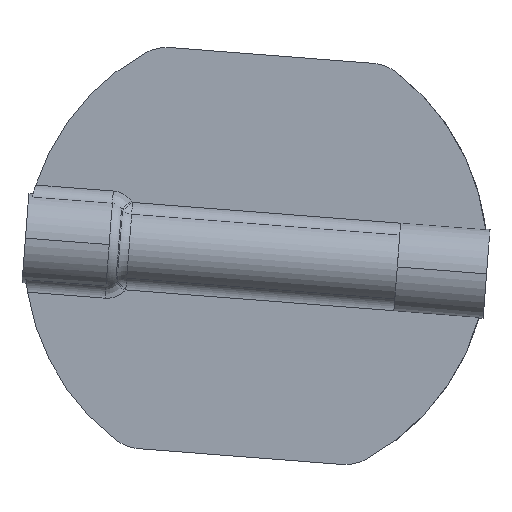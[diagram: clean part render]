
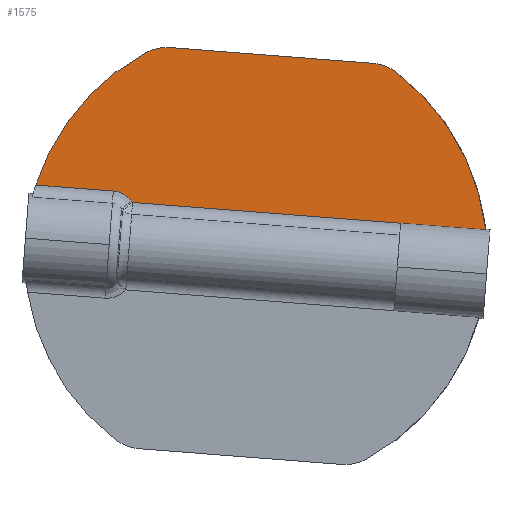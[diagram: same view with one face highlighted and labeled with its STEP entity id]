
A CAD part, front view. The second image highlights one B-rep face of the part: STEP entity #1575.
In plain terms, the highlighted planar face has unit normal (0, -1, 0).
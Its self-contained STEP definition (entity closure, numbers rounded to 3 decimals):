
#45=CARTESIAN_POINT('',(14.788,-1.,191.483));
#46=CARTESIAN_POINT('',(14.775,-1.,191.499));
#47=CARTESIAN_POINT('',(14.751,-1.,191.531));
#48=CARTESIAN_POINT('',(14.714,-1.,191.58));
#49=CARTESIAN_POINT('',(14.689,-1.,191.612));
#50=CARTESIAN_POINT('',(14.677,-1.,191.628));
#52=CARTESIAN_POINT('',(14.677,-1.,191.628));
#53=CARTESIAN_POINT('',(14.607,-1.,191.719));
#54=CARTESIAN_POINT('',(14.458,-1.,191.893));
#55=CARTESIAN_POINT('',(14.209,-1.,192.123));
#56=CARTESIAN_POINT('',(13.934,-1.,192.323));
#57=CARTESIAN_POINT('',(13.646,-1.,192.485));
#58=CARTESIAN_POINT('',(13.334,-1.,192.616));
#59=CARTESIAN_POINT('',(12.992,-1.,192.711));
#60=CARTESIAN_POINT('',(12.757,-1.,192.745));
#61=CARTESIAN_POINT('',(12.637,-1.,192.754));
#63=DIRECTION('',(-0.997,0.,0.077));
#64=VECTOR('',#63,8.672);
#65=CARTESIAN_POINT('',(12.637,-1.,192.754));
#66=LINE('',#65,#64);
#67=CARTESIAN_POINT('',(18.619,-1.,203.797));
#68=DIRECTION('',(0.,-1.,0.));
#69=DIRECTION('',(0.077,0.,0.997));
#70=AXIS2_PLACEMENT_3D('',#67,#68,#69);
#72=DIRECTION('',(0.997,0.,-0.077));
#73=VECTOR('',#72,22.682);
#74=CARTESIAN_POINT('',(19.005,-1.,208.782));
#75=LINE('',#74,#73);
#76=CARTESIAN_POINT('',(41.233,-1.,202.043));
#77=DIRECTION('',(0.,-1.,0.));
#78=DIRECTION('',(0.608,0.,0.794));
#79=AXIS2_PLACEMENT_3D('',#76,#77,#78);
#81=DIRECTION('',(0.997,0.,-0.077));
#82=VECTOR('',#81,9.531);
#83=CARTESIAN_POINT('',(44.736,-1.,189.161));
#84=LINE('',#83,#82);
#85=DIRECTION('',(-0.997,0.,0.077));
#86=VECTOR('',#85,30.039);
#87=CARTESIAN_POINT('',(44.736,-1.,189.161));
#88=LINE('',#87,#86);
#229=CARTESIAN_POINT('',(28.575,-1.,185.5));
#230=DIRECTION('',(0.,-1.,0.));
#231=DIRECTION('',(-0.478,0.,0.878));
#232=AXIS2_PLACEMENT_3D('',#229,#230,#231);
#892=CARTESIAN_POINT('',(28.575,-1.,185.5));
#893=DIRECTION('',(0.,-1.,0.));
#894=DIRECTION('',(0.994,0.,0.113));
#895=AXIS2_PLACEMENT_3D('',#892,#893,#894);
#1376=CARTESIAN_POINT('',(19.005,-1.,208.782));
#1377=CARTESIAN_POINT('',(16.229,-1.,208.188));
#1378=VERTEX_POINT('',#1376);
#1379=VERTEX_POINT('',#1377);
#1392=CARTESIAN_POINT('',(44.271,-1.,206.014));
#1393=CARTESIAN_POINT('',(41.619,-1.,207.028));
#1394=VERTEX_POINT('',#1392);
#1395=VERTEX_POINT('',#1393);
#1424=VERTEX_POINT('',#45);
#1425=VERTEX_POINT('',#50);
#1430=CARTESIAN_POINT('',(44.736,-1.,189.161));
#1432=VERTEX_POINT('',#1430);
#1480=CARTESIAN_POINT('',(54.239,-1.,188.424));
#1481=VERTEX_POINT('',#1480);
#1492=CARTESIAN_POINT('',(12.637,-1.,192.754));
#1493=CARTESIAN_POINT('',(3.991,-1.,193.424));
#1494=VERTEX_POINT('',#1492);
#1495=VERTEX_POINT('',#1493);
#1548=CARTESIAN_POINT('',(0.,-1.,0.));
#1549=DIRECTION('',(0.,1.,0.));
#1550=DIRECTION('',(1.,0.,0.));
#1551=AXIS2_PLACEMENT_3D('',#1548,#1549,#1550);
#1552=PLANE('',#1551);
#1554=ORIENTED_EDGE('',*,*,#1553,.T.);
#1556=ORIENTED_EDGE('',*,*,#1555,.T.);
#1558=ORIENTED_EDGE('',*,*,#1557,.T.);
#1560=ORIENTED_EDGE('',*,*,#1559,.F.);
#1562=ORIENTED_EDGE('',*,*,#1561,.F.);
#1564=ORIENTED_EDGE('',*,*,#1563,.T.);
#1566=ORIENTED_EDGE('',*,*,#1565,.F.);
#1568=ORIENTED_EDGE('',*,*,#1567,.F.);
#1570=ORIENTED_EDGE('',*,*,#1569,.F.);
#1572=ORIENTED_EDGE('',*,*,#1571,.T.);
#1573=EDGE_LOOP('',(#1554,#1556,#1558,#1560,#1562,#1564,#1566,#1568,#1570,
#1572));
#1574=FACE_OUTER_BOUND('',#1573,.F.);
#1575=ADVANCED_FACE('',(#1574),#1552,.F.);
#51=B_SPLINE_CURVE_WITH_KNOTS('',3,(#45,#46,#47,#48,#49,#50),.UNSPECIFIED.,.F.,
.F.,(4,1,1,4),(0.,0.333,0.667,1.),.UNSPECIFIED.);
#62=B_SPLINE_CURVE_WITH_KNOTS('',3,(#52,#53,#54,#55,#56,#57,#58,#59,#60,#61),
.UNSPECIFIED.,.F.,.F.,(4,1,1,1,1,1,1,4),(0.,0.143,
0.286,0.429,0.571,0.714,
0.857,1.),.UNSPECIFIED.);
#71=CIRCLE('',#70,5.);
#80=CIRCLE('',#79,5.);
#233=CIRCLE('',#232,25.83);
#896=CIRCLE('',#895,25.83);
#1553=EDGE_CURVE('',#1424,#1425,#51,.T.);
#1555=EDGE_CURVE('',#1425,#1494,#62,.T.);
#1557=EDGE_CURVE('',#1494,#1495,#66,.T.);
#1559=EDGE_CURVE('',#1379,#1495,#233,.T.);
#1561=EDGE_CURVE('',#1378,#1379,#71,.T.);
#1563=EDGE_CURVE('',#1378,#1395,#75,.T.);
#1565=EDGE_CURVE('',#1394,#1395,#80,.T.);
#1567=EDGE_CURVE('',#1481,#1394,#896,.T.);
#1569=EDGE_CURVE('',#1432,#1481,#84,.T.);
#1571=EDGE_CURVE('',#1432,#1424,#88,.T.);
